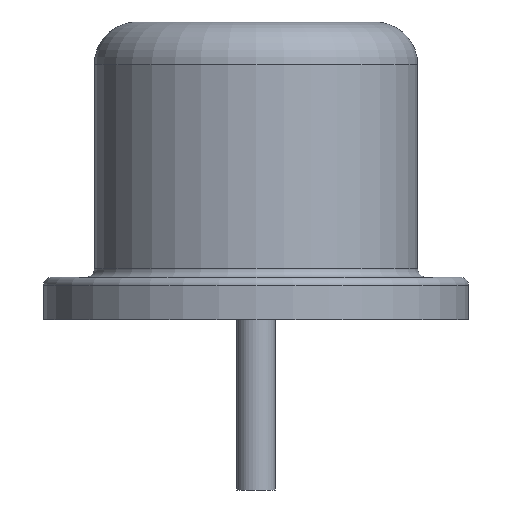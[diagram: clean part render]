
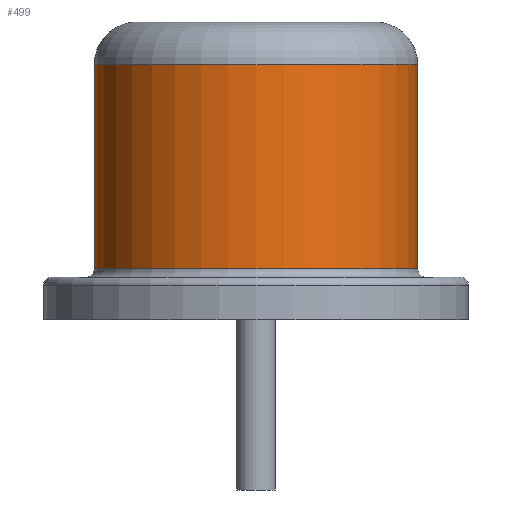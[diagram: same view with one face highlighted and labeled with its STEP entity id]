
A CAD part, left-side view. The second image highlights one B-rep face of the part: STEP entity #499.
In plain terms, the highlighted cylindrical face has radius 1.9 mm (diameter 3.8 mm), a partial arc.
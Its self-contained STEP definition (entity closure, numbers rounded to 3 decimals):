
#458 = CARTESIAN_POINT ( 'NONE',  ( -3.25, 1.9, 3. ) ) ;
#459 = VERTEX_POINT ( 'NONE', #458 ) ;
#460 = CARTESIAN_POINT ( 'NONE',  ( -3.25, 1.9, 0.6 ) ) ;
#461 = VERTEX_POINT ( 'NONE', #460 ) ;
#462 = CARTESIAN_POINT ( 'NONE',  ( -3.25, 1.9, 3.5 ) ) ;
#463 = DIRECTION ( 'NONE',  ( 0., 0., -1. ) ) ;
#464 = VECTOR ( 'NONE', #463, 1000. ) ;
#465 = LINE ( 'NONE', #462, #464 ) ;
#466 = EDGE_CURVE ( 'NONE', #459, #461, #465, .T. ) ;
#467 = ORIENTED_EDGE ( 'NONE', *, *, #466, .T. ) ;
#468 = CARTESIAN_POINT ( 'NONE',  ( -3.25, -1.9, 0.6 ) ) ;
#469 = VERTEX_POINT ( 'NONE', #468 ) ;
#470 = CARTESIAN_POINT ( 'NONE',  ( -3.25, 0., 0.6 ) ) ;
#471 = DIRECTION ( 'NONE',  ( 0., 0., 1. ) ) ;
#472 = DIRECTION ( 'NONE',  ( 0., -1., 0. ) ) ;
#473 = AXIS2_PLACEMENT_3D ( 'NONE', #470, #471, #472 ) ;
#474 = CIRCLE ( 'NONE', #473, 1.9) ;
#475 = EDGE_CURVE ( 'NONE', #461, #469, #474, .T. ) ;
#476 = ORIENTED_EDGE ( 'NONE', *, *, #475, .T. ) ;
#477 = CARTESIAN_POINT ( 'NONE',  ( -3.25, -1.9, 3. ) ) ;
#478 = VERTEX_POINT ( 'NONE', #477 ) ;
#479 = CARTESIAN_POINT ( 'NONE',  ( -3.25, -1.9, 3.5 ) ) ;
#480 = DIRECTION ( 'NONE',  ( 0., 0., -1. ) ) ;
#481 = VECTOR ( 'NONE', #480, 1000. ) ;
#482 = LINE ( 'NONE', #479, #481 ) ;
#483 = EDGE_CURVE ( 'NONE', #478, #469, #482, .T. ) ;
#484 = ORIENTED_EDGE ( 'NONE', *, *, #483, .F. ) ;
#485 = CARTESIAN_POINT ( 'NONE',  ( -3.25, 0., 3. ) ) ;
#486 = DIRECTION ( 'NONE',  ( 0., 0., -1. ) ) ;
#487 = DIRECTION ( 'NONE',  ( 0., -1., 0. ) ) ;
#488 = AXIS2_PLACEMENT_3D ( 'NONE', #485, #486, #487 ) ;
#489 = CIRCLE ( 'NONE', #488, 1.9) ;
#490 = EDGE_CURVE ( 'NONE', #478, #459, #489, .T. ) ;
#491 = ORIENTED_EDGE ( 'NONE', *, *, #490, .T. ) ;
#492 = EDGE_LOOP ( 'NONE', ( #467, #476, #484, #491 ) ) ;
#493 = FACE_OUTER_BOUND ( 'NONE', #492, .T. ) ;
#494 = CARTESIAN_POINT ( 'NONE',  ( -3.25, 0., 3.5 ) ) ;
#495 = DIRECTION ( 'NONE',  ( 0., 0., -1. ) ) ;
#496 = DIRECTION ( 'NONE',  ( 0., 1., 0. ) ) ;
#497 = AXIS2_PLACEMENT_3D ( 'NONE', #494, #495, #496 ) ;
#498 = CYLINDRICAL_SURFACE ( 'NONE', #497, 1.9) ;
#499 = ADVANCED_FACE ( 'NONE', ( #493 ), #498, .T. ) ;
